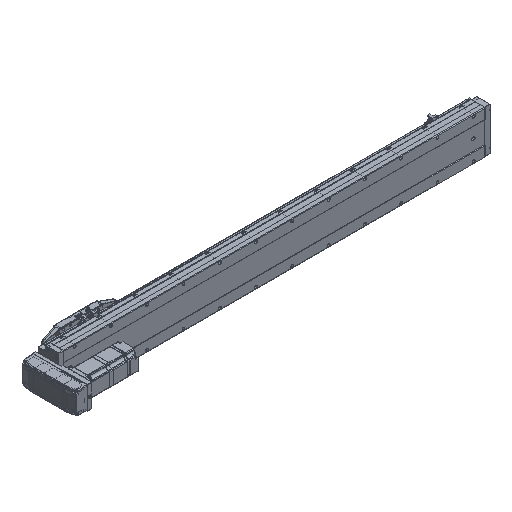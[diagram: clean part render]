
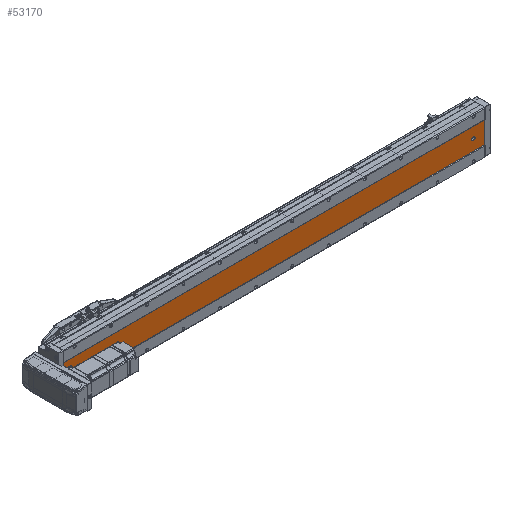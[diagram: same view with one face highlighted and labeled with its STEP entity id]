
A CAD part, isometric view. The second image highlights one B-rep face of the part: STEP entity #53170.
In plain terms, the highlighted planar face has unit normal (0, -1, 0).
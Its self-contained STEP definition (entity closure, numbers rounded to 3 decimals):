
#374 = CARTESIAN_POINT ( 'NONE',  ( -9.892, -52.848, 1161. ) ) ;
#814 = CIRCLE ( 'NONE', #73478, 3.5 ) ;
#827 = CIRCLE ( 'NONE', #21134, 3.5 ) ;
#1176 = VERTEX_POINT ( 'NONE', #67169 ) ;
#1326 = CARTESIAN_POINT ( 'NONE',  ( -9.892, -52.848, 0. ) ) ;
#4086 = VERTEX_POINT ( 'NONE', #22472 ) ;
#4754 = CARTESIAN_POINT ( 'NONE',  ( -36.392, -52.848, 1161. ) ) ;
#5119 = VECTOR ( 'NONE', #24108, 1000. ) ;
#5162 = ORIENTED_EDGE ( 'NONE', *, *, #34188, .T. ) ;
#6517 = VERTEX_POINT ( 'NONE', #74771 ) ;
#6731 = EDGE_CURVE ( 'NONE', #74129, #4086, #814, .T. ) ;
#7742 = EDGE_CURVE ( 'NONE', #37991, #37905, #827, .T. ) ;
#8678 = CARTESIAN_POINT ( 'NONE',  ( -39.892, -52.848, 1031. ) ) ;
#11020 = EDGE_CURVE ( 'NONE', #77856, #31925, #80095, .T. ) ;
#11234 = CIRCLE ( 'NONE', #27468, 3.5 ) ;
#11795 = ORIENTED_EDGE ( 'NONE', *, *, #49589, .T. ) ;
#12073 = VERTEX_POINT ( 'NONE', #24735 ) ;
#13001 = ORIENTED_EDGE ( 'NONE', *, *, #58170, .F. ) ;
#13925 = VERTEX_POINT ( 'NONE', #46294 ) ;
#14512 = VERTEX_POINT ( 'NONE', #374 ) ;
#15062 = AXIS2_PLACEMENT_3D ( 'NONE', #24612, #49742, #55345 ) ;
#15140 = LINE ( 'NONE', #62332, #5119 ) ;
#18005 = EDGE_LOOP ( 'NONE', ( #72719, #18078 ) ) ;
#18078 = ORIENTED_EDGE ( 'NONE', *, *, #75520, .T. ) ;
#18110 = CIRCLE ( 'NONE', #62574, 3.5 ) ;
#21134 = AXIS2_PLACEMENT_3D ( 'NONE', #56008, #38129, #56276 ) ;
#22472 = CARTESIAN_POINT ( 'NONE',  ( -43.392, -52.848, 30. ) ) ;
#22729 = ORIENTED_EDGE ( 'NONE', *, *, #11020, .T. ) ;
#23085 = CARTESIAN_POINT ( 'NONE',  ( -36.392, -52.848, 30. ) ) ;
#23178 = CARTESIAN_POINT ( 'NONE',  ( -39.892, -52.848, 32. ) ) ;
#23937 = LINE ( 'NONE', #43965, #47903 ) ;
#24108 = DIRECTION ( 'NONE',  ( 0., 0., 1. ) ) ;
#24612 = CARTESIAN_POINT ( 'NONE',  ( -39.892, -52.848, 1031. ) ) ;
#24674 = DIRECTION ( 'NONE',  ( 0., 0., -1. ) ) ;
#24735 = CARTESIAN_POINT ( 'NONE',  ( -43.392, -52.848, 32. ) ) ;
#25126 = CARTESIAN_POINT ( 'NONE',  ( -39.892, -52.848, 1134.5 ) ) ;
#27468 = AXIS2_PLACEMENT_3D ( 'NONE', #8678, #28491, #78520 ) ;
#28491 = DIRECTION ( 'NONE',  ( 0., 1., 0. ) ) ;
#28864 = CARTESIAN_POINT ( 'NONE',  ( -69.892, -52.848, 1161. ) ) ;
#29034 = AXIS2_PLACEMENT_3D ( 'NONE', #78145, #52732, #65584 ) ;
#29481 = LINE ( 'NONE', #32937, #40490 ) ;
#29527 = EDGE_LOOP ( 'NONE', ( #11795, #22729, #71439, #51103, #72193 ) ) ;
#29881 = CIRCLE ( 'NONE', #15062, 3.5 ) ;
#29941 = FACE_BOUND ( 'NONE', #29527, .T. ) ;
#31351 = CARTESIAN_POINT ( 'NONE',  ( -9.892, -52.848, 1161. ) ) ;
#31925 = VERTEX_POINT ( 'NONE', #23085 ) ;
#31978 = CARTESIAN_POINT ( 'NONE',  ( -39.892, -52.848, 26.5 ) ) ;
#32182 = CIRCLE ( 'NONE', #41731, 3.5 ) ;
#32937 = CARTESIAN_POINT ( 'NONE',  ( -69.892, -52.848, 0. ) ) ;
#33161 = DIRECTION ( 'NONE',  ( 0., 0., 1. ) ) ;
#33818 = EDGE_CURVE ( 'NONE', #75442, #6517, #23937, .T. ) ;
#34188 = EDGE_CURVE ( 'NONE', #1176, #13925, #29881, .T. ) ;
#34350 = CARTESIAN_POINT ( 'NONE',  ( -69.892, -52.848, 1161. ) ) ;
#34667 = LINE ( 'NONE', #34350, #38698 ) ;
#36021 = CIRCLE ( 'NONE', #29034, 3.5 ) ;
#36257 = CARTESIAN_POINT ( 'NONE',  ( -36.392, -52.848, 32. ) ) ;
#36335 = LINE ( 'NONE', #31351, #49287 ) ;
#36357 = DIRECTION ( 'NONE',  ( 0., 0., -1. ) ) ;
#36980 = EDGE_CURVE ( 'NONE', #13925, #1176, #11234, .T. ) ;
#37781 = DIRECTION ( 'NONE',  ( 0., 0., -1. ) ) ;
#37905 = VERTEX_POINT ( 'NONE', #25126 ) ;
#37991 = VERTEX_POINT ( 'NONE', #70932 ) ;
#38129 = DIRECTION ( 'NONE',  ( 0., 1., 0. ) ) ;
#38698 = VECTOR ( 'NONE', #46383, 1000. ) ;
#39560 = EDGE_CURVE ( 'NONE', #31925, #74129, #32182, .T. ) ;
#40141 = VECTOR ( 'NONE', #36357, 1000. ) ;
#40469 = ORIENTED_EDGE ( 'NONE', *, *, #36980, .T. ) ;
#40490 = VECTOR ( 'NONE', #46351, 1000. ) ;
#41731 = AXIS2_PLACEMENT_3D ( 'NONE', #51941, #65350, #45573 ) ;
#43057 = ORIENTED_EDGE ( 'NONE', *, *, #60059, .T. ) ;
#43965 = CARTESIAN_POINT ( 'NONE',  ( -69.892, -52.848, 1161. ) ) ;
#44591 = EDGE_LOOP ( 'NONE', ( #43057, #71859, #13001, #47621 ) ) ;
#45573 = DIRECTION ( 'NONE',  ( 0., 0., 1. ) ) ;
#46294 = CARTESIAN_POINT ( 'NONE',  ( -39.892, -52.848, 1027.5 ) ) ;
#46351 = DIRECTION ( 'NONE',  ( 1., 0., 0. ) ) ;
#46383 = DIRECTION ( 'NONE',  ( 1., 0., 0. ) ) ;
#47621 = ORIENTED_EDGE ( 'NONE', *, *, #33818, .T. ) ;
#47885 = FACE_BOUND ( 'NONE', #59552, .T. ) ;
#47903 = VECTOR ( 'NONE', #24674, 1000. ) ;
#48918 = FACE_OUTER_BOUND ( 'NONE', #44591, .T. ) ;
#49287 = VECTOR ( 'NONE', #37781, 1000. ) ;
#49589 = EDGE_CURVE ( 'NONE', #12073, #77856, #18110, .T. ) ;
#49742 = DIRECTION ( 'NONE',  ( 0., 1., 0. ) ) ;
#51103 = ORIENTED_EDGE ( 'NONE', *, *, #6731, .T. ) ;
#51396 = EDGE_CURVE ( 'NONE', #4086, #12073, #15140, .T. ) ;
#51889 = FACE_BOUND ( 'NONE', #18005, .T. ) ;
#51941 = CARTESIAN_POINT ( 'NONE',  ( -39.892, -52.848, 30. ) ) ;
#52732 = DIRECTION ( 'NONE',  ( 0., 1., 0. ) ) ;
#53170 = ADVANCED_FACE ( 'NONE', ( #29941, #47885, #51889, #48918 ), #53741, .F. ) ;
#53741 = PLANE ( 'NONE',  #76818 ) ;
#55345 = DIRECTION ( 'NONE',  ( 0., 0., 1. ) ) ;
#56008 = CARTESIAN_POINT ( 'NONE',  ( -39.892, -52.848, 1131. ) ) ;
#56276 = DIRECTION ( 'NONE',  ( 0., 0., 1. ) ) ;
#58170 = EDGE_CURVE ( 'NONE', #75442, #14512, #34667, .T. ) ;
#59552 = EDGE_LOOP ( 'NONE', ( #40469, #5162 ) ) ;
#60059 = EDGE_CURVE ( 'NONE', #6517, #76958, #29481, .T. ) ;
#62332 = CARTESIAN_POINT ( 'NONE',  ( -43.392, -52.848, 1161. ) ) ;
#62574 = AXIS2_PLACEMENT_3D ( 'NONE', #23178, #81221, #67301 ) ;
#64481 = CARTESIAN_POINT ( 'NONE',  ( -69.892, -52.848, 1161. ) ) ;
#65350 = DIRECTION ( 'NONE',  ( 0., 1., 0. ) ) ;
#65584 = DIRECTION ( 'NONE',  ( 0., 0., 1. ) ) ;
#66060 = EDGE_CURVE ( 'NONE', #14512, #76958, #36335, .T. ) ;
#67169 = CARTESIAN_POINT ( 'NONE',  ( -39.892, -52.848, 1034.5 ) ) ;
#67301 = DIRECTION ( 'NONE',  ( 0., 0., 1. ) ) ;
#70932 = CARTESIAN_POINT ( 'NONE',  ( -39.892, -52.848, 1127.5 ) ) ;
#71439 = ORIENTED_EDGE ( 'NONE', *, *, #39560, .T. ) ;
#71859 = ORIENTED_EDGE ( 'NONE', *, *, #66060, .F. ) ;
#71965 = DIRECTION ( 'NONE',  ( 0., 1., 0. ) ) ;
#72193 = ORIENTED_EDGE ( 'NONE', *, *, #51396, .T. ) ;
#72719 = ORIENTED_EDGE ( 'NONE', *, *, #7742, .T. ) ;
#73478 = AXIS2_PLACEMENT_3D ( 'NONE', #76731, #71965, #33161 ) ;
#73577 = DIRECTION ( 'NONE',  ( 0., 0., 1. ) ) ;
#74129 = VERTEX_POINT ( 'NONE', #31978 ) ;
#74771 = CARTESIAN_POINT ( 'NONE',  ( -69.892, -52.848, 0. ) ) ;
#75442 = VERTEX_POINT ( 'NONE', #64481 ) ;
#75520 = EDGE_CURVE ( 'NONE', #37905, #37991, #36021, .T. ) ;
#76731 = CARTESIAN_POINT ( 'NONE',  ( -39.892, -52.848, 30. ) ) ;
#76818 = AXIS2_PLACEMENT_3D ( 'NONE', #28864, #80257, #73577 ) ;
#76958 = VERTEX_POINT ( 'NONE', #1326 ) ;
#77856 = VERTEX_POINT ( 'NONE', #36257 ) ;
#78145 = CARTESIAN_POINT ( 'NONE',  ( -39.892, -52.848, 1131. ) ) ;
#78520 = DIRECTION ( 'NONE',  ( 0., 0., 1. ) ) ;
#80095 = LINE ( 'NONE', #4754, #40141 ) ;
#80257 = DIRECTION ( 'NONE',  ( 0., 1., 0. ) ) ;
#81221 = DIRECTION ( 'NONE',  ( 0., 1., 0. ) ) ;
